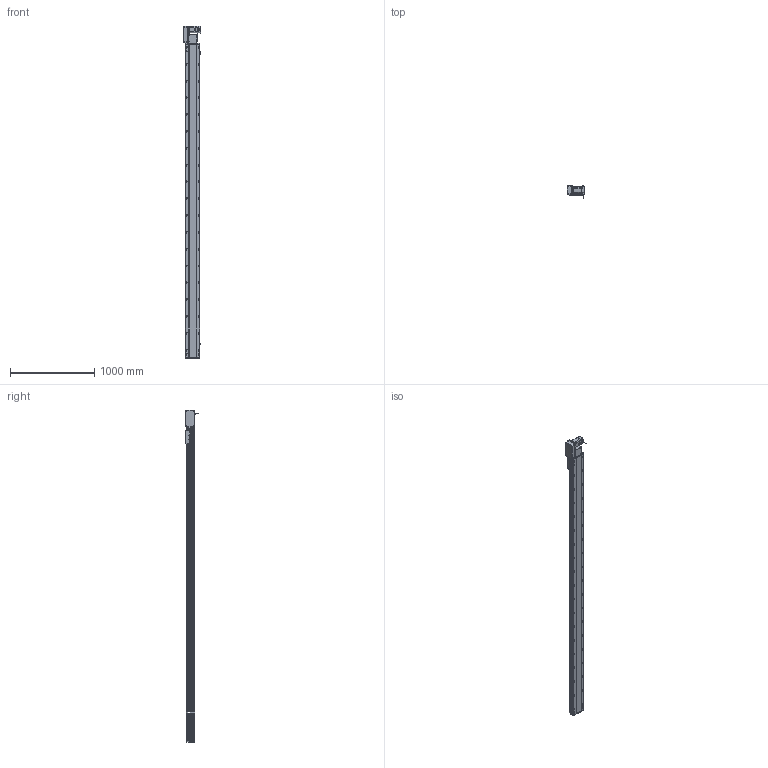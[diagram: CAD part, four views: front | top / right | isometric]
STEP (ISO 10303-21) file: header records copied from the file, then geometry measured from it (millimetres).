
FILE_DESCRIPTION (( 'STEP AP214' ), '1' );
FILE_NAME ('RTB17S-XX-3450-L-M75-C4.STEP', '2025-12-12T00:27:29', ( '' ), ( '' ), 'SwSTEP 2.0', 'SolidWorks 2018', '' );
FILE_SCHEMA (( 'AUTOMOTIVE_DESIGN' ));
Length unit declared in the file: millimetre
Products named in the file (15): RTB17S-XX-3450-L-M75-C4; 750W萇儂^RTB17S-XX-XX-L-M75-C4; RTB17S-L-々湍釱蚾饜-750W^RTB17S-XX-XX-L-M75-C4; RTH13-BL-012覜茼え俋离^RTB17S-賑釱_RTB17S-XX-XX-L-M75-C4; RTB22S-GY-005P^RTB17S-L-々湍釱蚾饜-750W_RTB17S-XX-XX-L-M75-C4; RTB17-R-011菁釱^RTB17S-XX-XX-L-M75-C4; RTB22S-GY-018P^RTB17S-L-々湍釱蚾饜-750W_RTB17S-XX-XX-L-M75-C4; RTB17S-L-007奻裔^RTB17S-XX-XX-L-M75-C4; RTB17S-賑釱^RTB17S-XX-XX-L-M75-C4; RTB17S-L-004-賑釱^RTB17S-賑釱_RTB17S-XX-XX-L-M75-C4; RMP17S-L-014-T20-P75--々湍釱^RTB17S-L-々湍釱蚾饜-750W_RTB17S-XX-XX-L-M75-C4; RTB22S-GY-008-M75--萇儂啣^RTB17S-L-々湍釱蚾饜-750W_RTB17S-XX-XX-L-M75-C4; RTB22S-GY-017P^RTB17S-L-々湍釱蚾饜-750W_RTB17S-XX-XX-L-M75-C4; RTB17S-L-001-耜醱啣^RTB17S-XX-XX-L-M75-C4; EE672^RTB17S-XX-XX-L-M75-C4
Assembly tree (17 placements, depth 3):
  RTB17S-XX-3450-L-M75-C4
    RTB17-R-011菁釱^RTB17S-XX-XX-L-M75-C4
    EE672^RTB17S-XX-XX-L-M75-C4  x3
    RTB17S-L-001-耜醱啣^RTB17S-XX-XX-L-M75-C4
    RTB17S-賑釱^RTB17S-XX-XX-L-M75-C4
      RTB17S-L-004-賑釱^RTB17S-賑釱_RTB17S-XX-XX-L-M75-C4
      RTH13-BL-012覜茼え俋离^RTB17S-賑釱_RTB17S-XX-XX-L-M75-C4
    RTB17S-L-007奻裔^RTB17S-XX-XX-L-M75-C4
    750W萇儂^RTB17S-XX-XX-L-M75-C4
    RTB17S-L-々湍釱蚾饜-750W^RTB17S-XX-XX-L-M75-C4
      RMP17S-L-014-T20-P75--々湍釱^RTB17S-L-々湍釱蚾饜-750W_RTB17S-XX-XX-L-M75-C4
      RTB22S-GY-005P^RTB17S-L-々湍釱蚾饜-750W_RTB17S-XX-XX-L-M75-C4
      RTB22S-GY-017P^RTB17S-L-々湍釱蚾饜-750W_RTB17S-XX-XX-L-M75-C4  x2
      RTB22S-GY-008-M75--萇儂啣^RTB17S-L-々湍釱蚾饜-750W_RTB17S-XX-XX-L-M75-C4
      RTB22S-GY-018P^RTB17S-L-々湍釱蚾饜-750W_RTB17S-XX-XX-L-M75-C4
Bounding box: 210.4 x 152.7 x 3949 mm (x, y, z)
Volume: 27511236 mm3; surface area: 5082124.3 mm2
Topology: 17 solids, 17 shells, 2297 faces, 6484 edges, 4202 vertices
Faces by surface type: plane 996, cylinder 885, bspline 294, cone 110, sphere 8, torus 4
Entity records: 68086 total; most frequent: CARTESIAN_POINT 20348, ORIENTED_EDGE 9812, DIRECTION 9032, EDGE_CURVE 4906, AXIS2_PLACEMENT_3D 3222, VERTEX_POINT 3206, LINE 2588, VECTOR 2588
